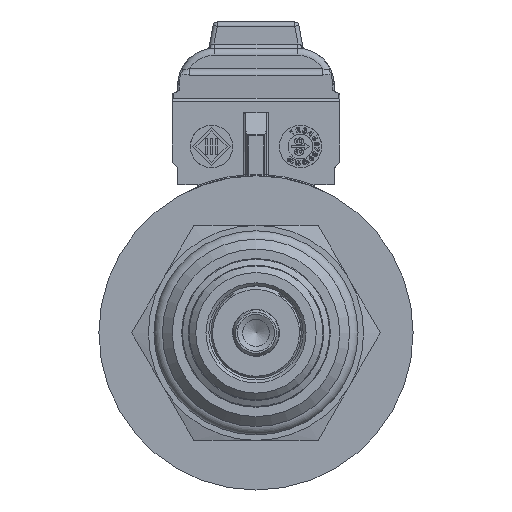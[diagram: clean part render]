
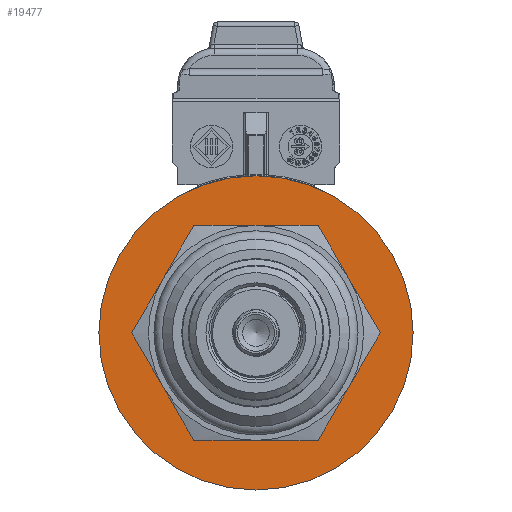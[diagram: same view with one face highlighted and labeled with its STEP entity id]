
A CAD part, front view. The second image highlights one B-rep face of the part: STEP entity #19477.
In plain terms, the highlighted planar face has unit normal (0, -1, 0).
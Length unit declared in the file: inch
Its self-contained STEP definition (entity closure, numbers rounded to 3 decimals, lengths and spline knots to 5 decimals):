
#808=FACE_BOUND('',#3496,.T.);
#1222=PLANE('',#21633);
#2302=FACE_OUTER_BOUND('',#3495,.T.);
#3495=EDGE_LOOP('',(#17063,#17064));
#3496=EDGE_LOOP('',(#17065,#17066));
#6667=CIRCLE('',#20864,0.73031);
#6668=CIRCLE('',#20865,0.73031);
#6681=CIRCLE('',#20879,0.37402);
#6682=CIRCLE('',#20880,0.37402);
#8143=VERTEX_POINT('',#35524);
#8144=VERTEX_POINT('',#35525);
#8171=VERTEX_POINT('',#35680);
#8172=VERTEX_POINT('',#35682);
#10496=EDGE_CURVE('',#8143,#8144,#6667,.T.);
#10497=EDGE_CURVE('',#8144,#8143,#6668,.T.);
#10526=EDGE_CURVE('',#8171,#8172,#6681,.T.);
#10527=EDGE_CURVE('',#8172,#8171,#6682,.T.);
#17063=ORIENTED_EDGE('',*,*,#10496,.T.);
#17064=ORIENTED_EDGE('',*,*,#10497,.T.);
#17065=ORIENTED_EDGE('',*,*,#10527,.F.);
#17066=ORIENTED_EDGE('',*,*,#10526,.F.);
#19477=ADVANCED_FACE('',(#2302,#808),#1222,.T.);
#20864=AXIS2_PLACEMENT_3D('',#35526,#24853,#24854);
#20865=AXIS2_PLACEMENT_3D('',#35527,#24855,#24856);
#20879=AXIS2_PLACEMENT_3D('',#35683,#24889,#24890);
#20880=AXIS2_PLACEMENT_3D('',#35684,#24891,#24892);
#21633=AXIS2_PLACEMENT_3D('',#41073,#27047,#27048);
#24853=DIRECTION('center_axis',(0.,-1.,0.));
#24854=DIRECTION('ref_axis',(1.,0.,0.));
#24855=DIRECTION('center_axis',(0.,-1.,0.));
#24856=DIRECTION('ref_axis',(1.,0.,0.));
#24889=DIRECTION('center_axis',(0.,-1.,0.));
#24890=DIRECTION('ref_axis',(1.,0.,0.));
#24891=DIRECTION('center_axis',(0.,-1.,0.));
#24892=DIRECTION('ref_axis',(1.,0.,0.));
#27047=DIRECTION('center_axis',(0.,-1.,0.));
#27048=DIRECTION('ref_axis',(1.,0.,0.));
#35524=CARTESIAN_POINT('',(-0.07102,-0.83528,0.));
#35525=CARTESIAN_POINT('',(-1.53165,-0.83528,0.));
#35526=CARTESIAN_POINT('Origin',(-0.80134,-0.83528,0.));
#35527=CARTESIAN_POINT('Origin',(-0.80134,-0.83528,0.));
#35680=CARTESIAN_POINT('',(-1.17535,-0.83528,0.));
#35682=CARTESIAN_POINT('',(-0.42732,-0.83528,0.));
#35683=CARTESIAN_POINT('Origin',(-0.80134,-0.83528,0.));
#35684=CARTESIAN_POINT('Origin',(-0.80134,-0.83528,0.));
#41073=CARTESIAN_POINT('Origin',(-0.80134,-0.83528,0.));
